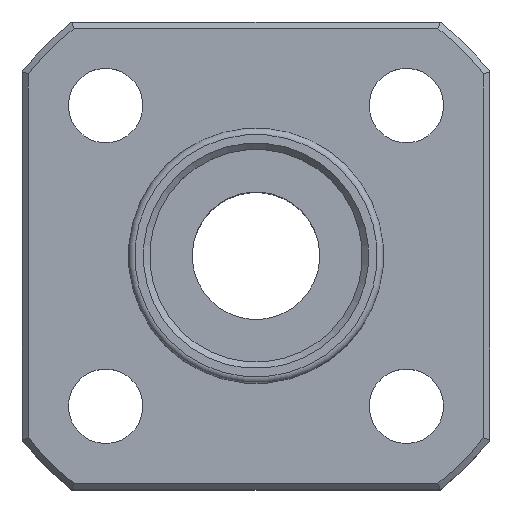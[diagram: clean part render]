
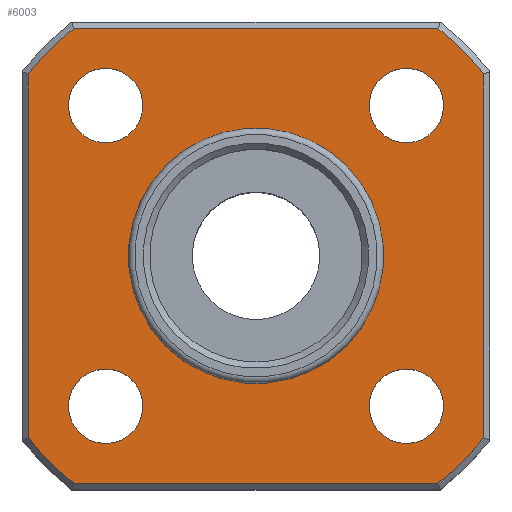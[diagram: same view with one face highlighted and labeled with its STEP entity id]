
A CAD part, top view. The second image highlights one B-rep face of the part: STEP entity #6003.
In plain terms, the highlighted planar face has unit normal (0, 0, 1).
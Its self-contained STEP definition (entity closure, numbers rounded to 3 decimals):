
#148=CIRCLE('',#6401,6.);
#157=CIRCLE('',#6416,13.7);
#158=CIRCLE('',#6417,13.7);
#159=CIRCLE('',#6418,13.7);
#160=CIRCLE('',#6419,13.7);
#161=CIRCLE('',#6420,1.75);
#162=CIRCLE('',#6421,1.75);
#163=CIRCLE('',#6422,1.75);
#164=CIRCLE('',#6423,1.75);
#609=ORIENTED_EDGE('',*,*,#2340,.T.);
#610=ORIENTED_EDGE('',*,*,#2341,.T.);
#611=ORIENTED_EDGE('',*,*,#2342,.T.);
#612=ORIENTED_EDGE('',*,*,#2343,.T.);
#613=ORIENTED_EDGE('',*,*,#2344,.T.);
#614=ORIENTED_EDGE('',*,*,#2345,.T.);
#615=ORIENTED_EDGE('',*,*,#2346,.T.);
#616=ORIENTED_EDGE('',*,*,#2347,.T.);
#617=ORIENTED_EDGE('',*,*,#2348,.F.);
#618=ORIENTED_EDGE('',*,*,#2349,.F.);
#619=ORIENTED_EDGE('',*,*,#2350,.F.);
#620=ORIENTED_EDGE('',*,*,#2351,.F.);
#621=ORIENTED_EDGE('',*,*,#2329,.T.);
#2329=EDGE_CURVE('',#3196,#3196,#148,.F.);
#2340=EDGE_CURVE('',#3207,#3208,#3699,.T.);
#2341=EDGE_CURVE('',#3208,#3209,#157,.T.);
#2342=EDGE_CURVE('',#3209,#3210,#3700,.T.);
#2343=EDGE_CURVE('',#3210,#3211,#158,.T.);
#2344=EDGE_CURVE('',#3211,#3212,#3701,.T.);
#2345=EDGE_CURVE('',#3212,#3213,#159,.T.);
#2346=EDGE_CURVE('',#3213,#3214,#3702,.T.);
#2347=EDGE_CURVE('',#3214,#3207,#160,.T.);
#2348=EDGE_CURVE('',#3215,#3215,#161,.T.);
#2349=EDGE_CURVE('',#3216,#3216,#162,.T.);
#2350=EDGE_CURVE('',#3217,#3217,#163,.T.);
#2351=EDGE_CURVE('',#3218,#3218,#164,.T.);
#3196=VERTEX_POINT('',#9487);
#3207=VERTEX_POINT('',#9515);
#3208=VERTEX_POINT('',#9516);
#3209=VERTEX_POINT('',#9518);
#3210=VERTEX_POINT('',#9520);
#3211=VERTEX_POINT('',#9522);
#3212=VERTEX_POINT('',#9524);
#3213=VERTEX_POINT('',#9526);
#3214=VERTEX_POINT('',#9528);
#3215=VERTEX_POINT('',#9531);
#3216=VERTEX_POINT('',#9533);
#3217=VERTEX_POINT('',#9535);
#3218=VERTEX_POINT('',#9537);
#3699=LINE('',#9514,#4368);
#3700=LINE('',#9519,#4369);
#3701=LINE('',#9523,#4370);
#3702=LINE('',#9527,#4371);
#4368=VECTOR('',#7018,1000.);
#4369=VECTOR('',#7021,1000.);
#4370=VECTOR('',#7024,1000.);
#4371=VECTOR('',#7027,1000.);
#4909=EDGE_LOOP('',(#609,#610,#611,#612,#613,#614,#615,#616));
#4910=EDGE_LOOP('',(#617));
#4911=EDGE_LOOP('',(#618));
#4912=EDGE_LOOP('',(#619));
#4913=EDGE_LOOP('',(#620));
#4914=EDGE_LOOP('',(#621));
#5352=FACE_BOUND('',#4909,.T.);
#5353=FACE_BOUND('',#4910,.T.);
#5354=FACE_BOUND('',#4911,.T.);
#5355=FACE_BOUND('',#4912,.T.);
#5356=FACE_BOUND('',#4913,.T.);
#5357=FACE_BOUND('',#4914,.T.);
#5732=PLANE('',#6415);
#6003=ADVANCED_FACE('',(#5352,#5353,#5354,#5355,#5356,#5357),#5732,.T.);
#6401=AXIS2_PLACEMENT_3D('',#9486,#6986,#6987);
#6415=AXIS2_PLACEMENT_3D('',#9513,#7016,#7017);
#6416=AXIS2_PLACEMENT_3D('',#9517,#7019,#7020);
#6417=AXIS2_PLACEMENT_3D('',#9521,#7022,#7023);
#6418=AXIS2_PLACEMENT_3D('',#9525,#7025,#7026);
#6419=AXIS2_PLACEMENT_3D('',#9529,#7028,#7029);
#6420=AXIS2_PLACEMENT_3D('',#9530,#7030,#7031);
#6421=AXIS2_PLACEMENT_3D('',#9532,#7032,#7033);
#6422=AXIS2_PLACEMENT_3D('',#9534,#7034,#7035);
#6423=AXIS2_PLACEMENT_3D('',#9536,#7036,#7037);
#6986=DIRECTION('',(0.,0.,1.));
#6987=DIRECTION('',(0.707,-0.707,0.));
#7016=DIRECTION('',(0.,0.,1.));
#7017=DIRECTION('',(0.707,-0.707,0.));
#7018=DIRECTION('',(0.,-1.,0.));
#7019=DIRECTION('',(0.,0.,1.));
#7020=DIRECTION('',(0.707,-0.707,0.));
#7021=DIRECTION('',(1.,0.,0.));
#7022=DIRECTION('',(0.,0.,1.));
#7023=DIRECTION('',(0.707,-0.707,0.));
#7024=DIRECTION('',(0.,1.,0.));
#7025=DIRECTION('',(0.,0.,1.));
#7026=DIRECTION('',(0.707,-0.707,0.));
#7027=DIRECTION('',(-1.,0.,0.));
#7028=DIRECTION('',(0.,0.,1.));
#7029=DIRECTION('',(0.707,-0.707,0.));
#7030=DIRECTION('',(0.,0.,1.));
#7031=DIRECTION('',(0.707,-0.707,0.));
#7032=DIRECTION('',(0.,0.,1.));
#7033=DIRECTION('',(0.707,-0.707,0.));
#7034=DIRECTION('',(0.,0.,1.));
#7035=DIRECTION('',(0.707,-0.707,0.));
#7036=DIRECTION('',(0.,0.,1.));
#7037=DIRECTION('',(0.707,-0.707,0.));
#9486=CARTESIAN_POINT('',(0.,0.,0.));
#9487=CARTESIAN_POINT('',(4.243,-4.243,0.));
#9513=CARTESIAN_POINT('',(0.,0.,0.));
#9514=CARTESIAN_POINT('',(-10.7,-8.66,0.));
#9515=CARTESIAN_POINT('',(-10.7,8.556,0.));
#9516=CARTESIAN_POINT('',(-10.7,-8.556,0.));
#9517=CARTESIAN_POINT('',(0.,0.,0.));
#9518=CARTESIAN_POINT('',(-8.556,-10.7,0.));
#9519=CARTESIAN_POINT('',(8.66,-10.7,0.));
#9520=CARTESIAN_POINT('',(8.556,-10.7,0.));
#9521=CARTESIAN_POINT('',(0.,0.,0.));
#9522=CARTESIAN_POINT('',(10.7,-8.556,0.));
#9523=CARTESIAN_POINT('',(10.7,8.66,0.));
#9524=CARTESIAN_POINT('',(10.7,8.556,0.));
#9525=CARTESIAN_POINT('',(0.,0.,0.));
#9526=CARTESIAN_POINT('',(8.556,10.7,0.));
#9527=CARTESIAN_POINT('',(-8.66,10.7,0.));
#9528=CARTESIAN_POINT('',(-8.556,10.7,0.));
#9529=CARTESIAN_POINT('',(0.,0.,0.));
#9530=CARTESIAN_POINT('',(7.071,7.071,0.));
#9531=CARTESIAN_POINT('',(8.309,5.834,0.));
#9532=CARTESIAN_POINT('',(-7.071,7.071,0.));
#9533=CARTESIAN_POINT('',(-5.834,5.834,0.));
#9534=CARTESIAN_POINT('',(-7.071,-7.071,0.));
#9535=CARTESIAN_POINT('',(-5.834,-8.309,0.));
#9536=CARTESIAN_POINT('',(7.071,-7.071,0.));
#9537=CARTESIAN_POINT('',(8.309,-8.309,0.));
